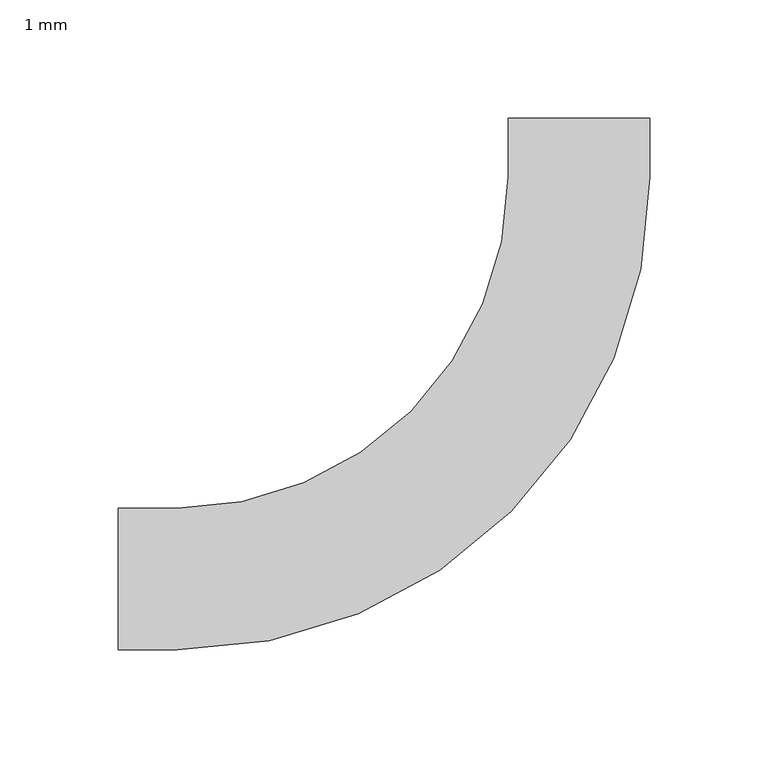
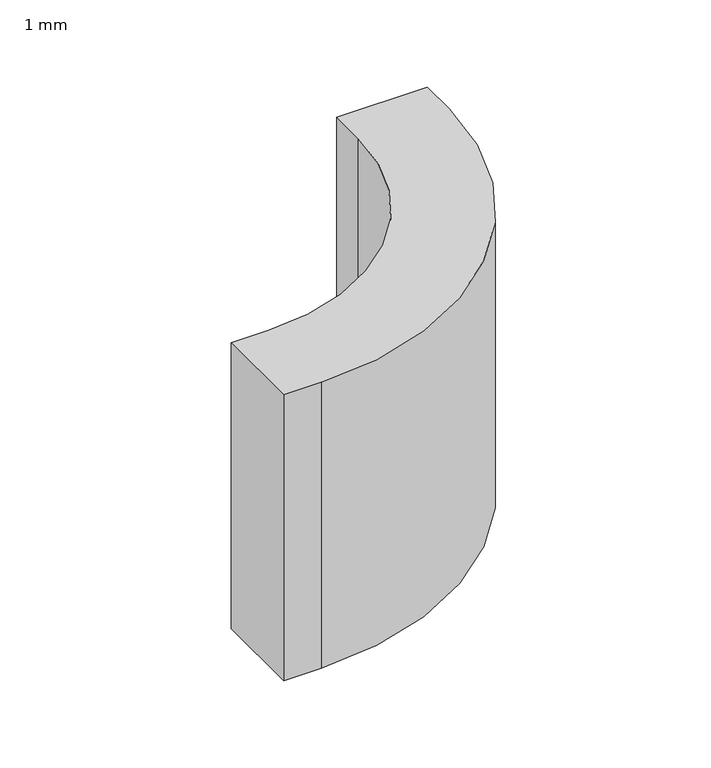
"""IFC4 building model written with IfcOpenShell, lengths in millimetres: cable carrier fitting geometry, BAKS_Łuk_koryta_pionowy (R140)w : 1 mm."""

from ifc_helpers import new_model, si_unit, point, frame, frame_2d, origin, place, context, project, spatial, polyline, circle_curve, trimmed, segment, composite_curve, outline, extrude, source, transform, mapped, element, save


def cable_carrier_fitting_1_mm_02684e42(model_context):
    return source(origin(), model_context, "Body", "SweptSolid", [
        extrude(outline(composite_curve([segment(polyline([(-195.0, -30.0), (-195.0, 30.0), (-170.0, 30.0)]), True, "CONTINUOUS"), segment(trimmed(circle_curve(frame_2d((-170.0, 170.0)), 140.0), [point((-170.0, 30.0))], [point((-30.0, 170.0))], True, "CARTESIAN"), True, "CONTINUOUS"), segment(polyline([(-30.0, 170.0), (-30.0, 195.0), (30.0, 195.0), (30.0, 170.0)]), True, "CONTINUOUS"), segment(trimmed(circle_curve(frame_2d((-170.0, 170.0)), 200.0), [point((30.0, 170.0))], [point((-170.0, -30.0))], False, "CARTESIAN"), True, "CONTINUOUS"), segment(polyline([(-170.0, -30.0), (-195.0, -30.0)]), True, "CONTINUOUS")], self_intersect=False)), frame((0.0, 0.0, -100.0), z_axis=(0.0, 0.0, 1.0), x_axis=(1.0, 0.0, 0.0)), (0.0, 0.0, 1.0), 200.0),
    ])


if __name__ == "__main__":
    model = new_model("IFC4")
    model_context = context("Model", 3, world=origin())
    ifc_project = project(units=[si_unit("LENGTHUNIT", "METRE", prefix="MILLI")], contexts=[model_context])
    site = spatial("IfcSite", under=ifc_project)
    building = spatial("IfcBuilding", under=site)
    placement = place(None, origin())
    cable_carrier_fitting_1_mm_shape = cable_carrier_fitting_1_mm_02684e42(model_context)
    element("IfcCableCarrierFitting", 1, ObjectType="BAKS_Łuk_koryta_pionowy (R140)w : 1 mm", at=placement, inside=building, context=model_context, shape_type="MappedRepresentation", body=[
        mapped(cable_carrier_fitting_1_mm_shape, transform((0.0, 0.0, 0.0), x_axis=(1.0, 0.0, 0.0), y_axis=(0.0, 1.0, 0.0), z_axis=(0.0, 0.0, 1.0))),
    ])
    save(model, "model.ifc")
